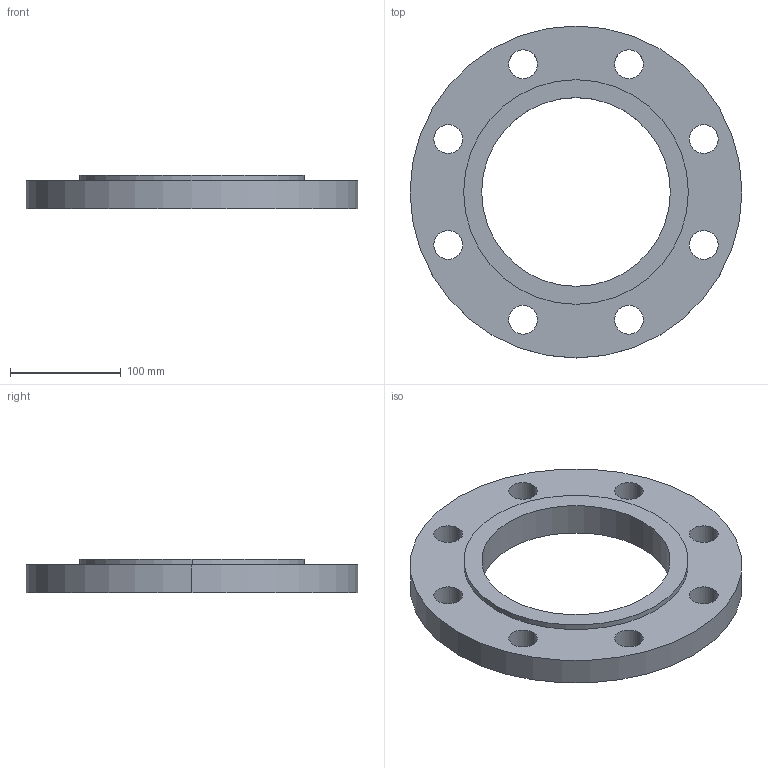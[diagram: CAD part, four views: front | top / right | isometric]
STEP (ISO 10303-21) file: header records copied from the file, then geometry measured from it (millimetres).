
FILE_DESCRIPTION (( 'STEP AP214' ), '1' );
FILE_NAME ('PN40 DN150 Type 01 - Type E Face.STEP', '2019-01-05T00:25:53', ( '' ), ( '' ), 'SwSTEP 2.0', 'SolidWorks 2019', '' );
FILE_SCHEMA (( 'AUTOMOTIVE_DESIGN' ));
Length unit declared in the file: millimetre
Products named in the file (1): PN40 DN150 Type 01 - Type E Face
Bounding box: 300 x 300 x 30 mm (x, y, z)
Volume: 1137835.8 mm3; surface area: 146369.6 mm2
Topology: 1 solids, 1 shells, 25 faces, 66 edges, 44 vertices
Faces by surface type: cylinder 22, plane 3
Entity records: 874 total; most frequent: DIRECTION 162, CARTESIAN_POINT 136, ORIENTED_EDGE 132, AXIS2_PLACEMENT_3D 70, EDGE_CURVE 66, CIRCLE 44, EDGE_LOOP 44, VERTEX_POINT 44
